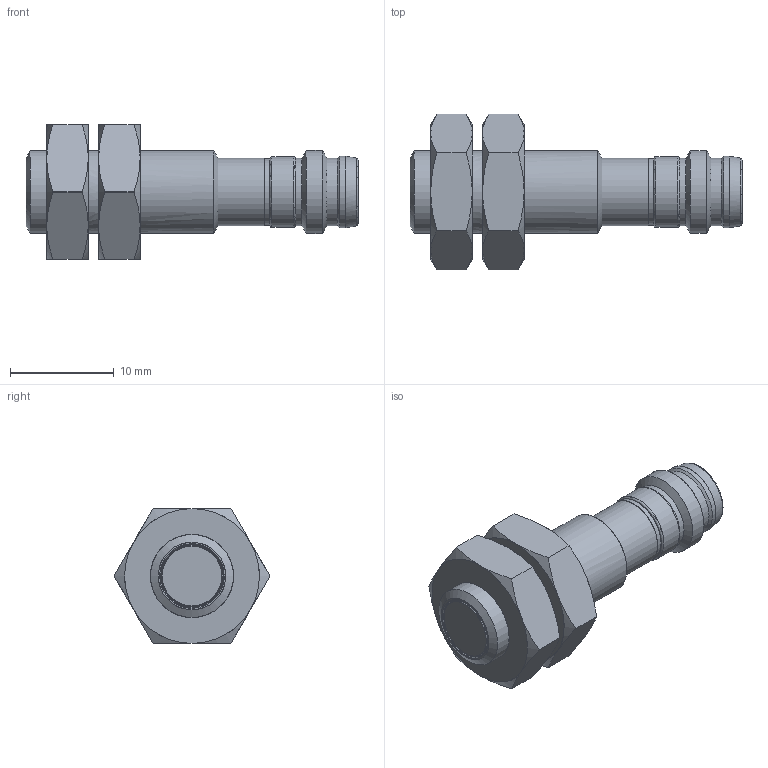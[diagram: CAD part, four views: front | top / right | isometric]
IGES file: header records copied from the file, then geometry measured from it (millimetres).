
Global section: file name: H:\lem\3DCAD_ISS208MM_4Nx_2E0_S8_3.igs; native system: NX V11.0; preprocessor: SIEMENS PLM Software NX 11.0; date: 20191018.144012; units: millimetre
Bounding box: 32 x 15.01 x 13 mm (x, y, z)
Surface area: 1515 mm2 (no closed solid volume)
Topology: 0 solids, 0 shells, 77 faces, 513 edges, 500 vertices
Faces by surface type: bspline 77
